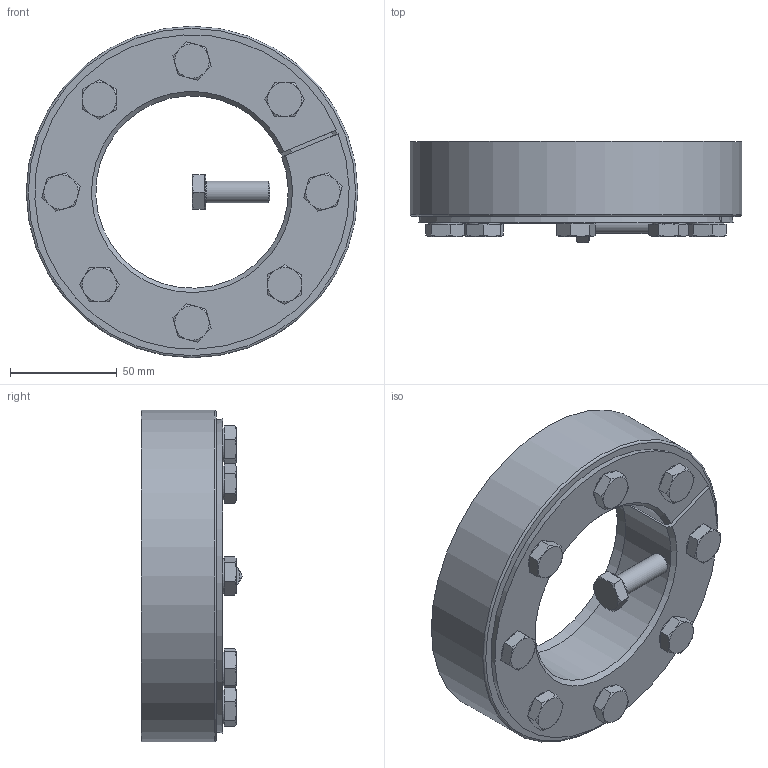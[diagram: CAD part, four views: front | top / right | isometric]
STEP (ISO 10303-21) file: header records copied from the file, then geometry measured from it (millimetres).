
FILE_DESCRIPTION( ( 'Unknown' ), '1' );
FILE_NAME( 'C:/Dokumente und Einstellungen/Sven/Desktop/homepage/cad - homepage/KBS19-1/KBS 19_1 - 90 x 155.stp', 'Unknown', ( 'Unknown' ), ( 'Unknown' ), 'XStep 1.0', 'Unknown', ' ' );
FILE_SCHEMA( ( 'automotive_design' ) );
Length unit declared in the file: millimetre
Products named in the file (3): Assem1; KBS 19_1 - 90 x 155; ISO 4017 - M10 x 30-N
Bounding box: 155 x 47.24 x 155 mm (x, y, z)
Volume: 917918.5 mm3; surface area: 142086.2 mm2
Topology: 11 solids, 11 shells, 271 faces, 606 edges, 366 vertices
Faces by surface type: plane 153, cone 69, cylinder 38, torus 11
Full cylindrical faces by diameter (mm): 10 x25, 16 x9, 155 x2
Entity records: 1674 total; most frequent: CARTESIAN_POINT 305, DIRECTION 240, ORIENTED_EDGE 198, AXIS2_PLACEMENT_3D 101, EDGE_CURVE 99, EDGE_LOOP 81, VERTEX_POINT 70, FACE_OUTER_BOUND 61
